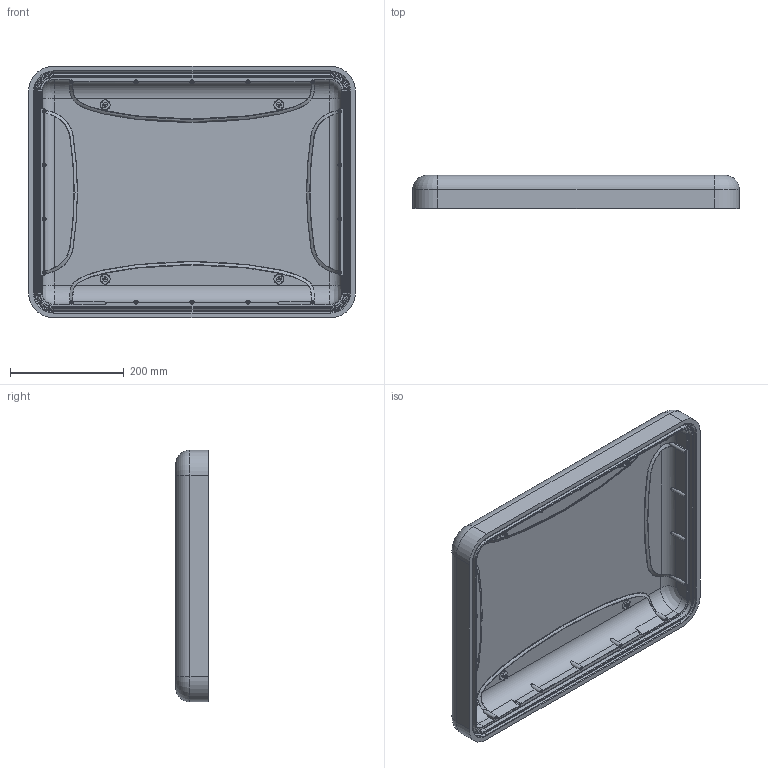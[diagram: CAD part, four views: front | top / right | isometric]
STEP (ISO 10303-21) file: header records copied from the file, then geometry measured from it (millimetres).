
FILE_DESCRIPTION (( 'STEP AP203' ), '1' );
FILE_NAME ('NANUK_950_top_Shell_INNER SURFS_Step.STEP', '2014-01-31T18:16:30', ( '' ), ( '' ), 'SwSTEP 2.0', 'SolidWorks 2014', '' );
FILE_SCHEMA (( 'CONFIG_CONTROL_DESIGN' ));
Products named in the file (1): NANUK_950_top_Shell_INNER SURFS_Step
Bounding box: 573.28 x 57.84 x 441.84 mm (x, y, z)
Volume: 3829978.4 mm3; surface area: 703779.1 mm2
Topology: 1 solids, 1 shells, 919 faces, 2372 edges, 1530 vertices
Faces by surface type: plane 387, bspline 277, cylinder 135, cone 64, torus 56
Entity records: 85882 total; most frequent: CARTESIAN_POINT 65449, ORIENTED_EDGE 4740, DIRECTION 3374, EDGE_CURVE 2370, VERTEX_POINT 1530, LINE 1226, VECTOR 1226, AXIS2_PLACEMENT_3D 1074
